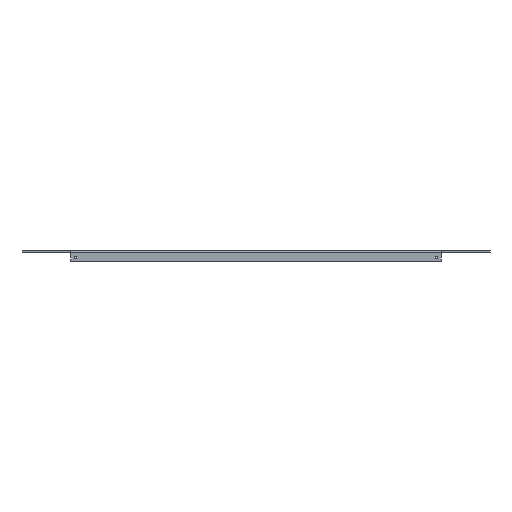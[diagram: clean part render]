
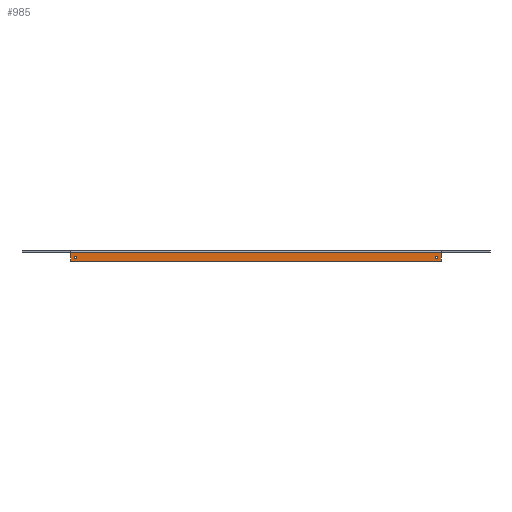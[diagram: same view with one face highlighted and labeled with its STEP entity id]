
A CAD part, left-side view. The second image highlights one B-rep face of the part: STEP entity #985.
In plain terms, the highlighted planar face has unit normal (-1, 0, 0).
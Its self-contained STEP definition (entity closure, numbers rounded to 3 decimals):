
#872=CARTESIAN_POINT('',(375.,3688.5,823.5));
#873=VERTEX_POINT('',#872);
#880=CARTESIAN_POINT('',(375.,4478.5,823.5));
#881=VERTEX_POINT('',#880);
#882=CARTESIAN_POINT('',(375.,4478.5,823.5));
#883=DIRECTION('',(-0.,-1.,-0.));
#884=VECTOR('',#883,790.);
#885=LINE('',#882,#884);
#886=EDGE_CURVE('',#881,#873,#885,.T.);
#897=CARTESIAN_POINT('',(375.,3593.5,840.));
#898=DIRECTION('',(-1.,0.,0.));
#899=DIRECTION('',(-0.,-1.,-0.));
#900=AXIS2_PLACEMENT_3D('',#897,#898,#899);
#901=PLANE('',#900);
#902=CARTESIAN_POINT('',(375.,4469.5,829.9));
#903=VERTEX_POINT('',#902);
#904=CARTESIAN_POINT('',(375.,4466.9,832.5));
#905=VERTEX_POINT('',#904);
#906=CARTESIAN_POINT('',(375.,4469.5,832.5));
#907=DIRECTION('',(-1.,0.,0.));
#908=DIRECTION('',(-0.,-1.,0.));
#909=AXIS2_PLACEMENT_3D('',#906,#907,#908);
#910=CIRCLE('',#909,2.6);
#911=EDGE_CURVE('',#903,#905,#910,.T.);
#912=ORIENTED_EDGE('',*,*,#911,.F.);
#913=CARTESIAN_POINT('',(375.,4469.5,832.5));
#914=DIRECTION('',(-1.,0.,0.));
#915=DIRECTION('',(-0.,-1.,0.));
#916=AXIS2_PLACEMENT_3D('',#913,#914,#915);
#917=CIRCLE('',#916,2.6);
#918=EDGE_CURVE('',#905,#903,#917,.T.);
#919=ORIENTED_EDGE('',*,*,#918,.F.);
#920=EDGE_LOOP('',(#912,#919));
#921=FACE_BOUND('',#920,.T.);
#922=CARTESIAN_POINT('',(375.,3697.5,829.9));
#923=VERTEX_POINT('',#922);
#924=CARTESIAN_POINT('',(375.,3694.9,832.5));
#925=VERTEX_POINT('',#924);
#926=CARTESIAN_POINT('',(375.,3697.5,832.5));
#927=DIRECTION('',(-1.,0.,0.));
#928=DIRECTION('',(-0.,-1.,0.));
#929=AXIS2_PLACEMENT_3D('',#926,#927,#928);
#930=CIRCLE('',#929,2.6);
#931=EDGE_CURVE('',#923,#925,#930,.T.);
#932=ORIENTED_EDGE('',*,*,#931,.F.);
#933=CARTESIAN_POINT('',(375.,3697.5,832.5));
#934=DIRECTION('',(-1.,0.,0.));
#935=DIRECTION('',(-0.,-1.,0.));
#936=AXIS2_PLACEMENT_3D('',#933,#934,#935);
#937=CIRCLE('',#936,2.6);
#938=EDGE_CURVE('',#925,#923,#937,.T.);
#939=ORIENTED_EDGE('',*,*,#938,.F.);
#940=EDGE_LOOP('',(#932,#939));
#941=FACE_BOUND('',#940,.T.);
#942=CARTESIAN_POINT('',(375.,3687.5,842.5));
#943=VERTEX_POINT('',#942);
#944=CARTESIAN_POINT('',(375.,3687.5,824.5));
#945=VERTEX_POINT('',#944);
#946=CARTESIAN_POINT('',(375.,3687.5,842.5));
#947=DIRECTION('',(0.,0.,-1.));
#948=VECTOR('',#947,18.);
#949=LINE('',#946,#948);
#950=EDGE_CURVE('',#943,#945,#949,.T.);
#951=ORIENTED_EDGE('',*,*,#950,.F.);
#952=CARTESIAN_POINT('',(375.,4479.5,842.5));
#953=VERTEX_POINT('',#952);
#954=CARTESIAN_POINT('',(375.,3687.5,842.5));
#955=DIRECTION('',(0.,1.,0.));
#956=VECTOR('',#955,792.);
#957=LINE('',#954,#956);
#958=EDGE_CURVE('',#943,#953,#957,.T.);
#959=ORIENTED_EDGE('',*,*,#958,.T.);
#960=CARTESIAN_POINT('',(375.,4479.5,824.5));
#961=VERTEX_POINT('',#960);
#962=CARTESIAN_POINT('',(375.,4479.5,842.5));
#963=DIRECTION('',(0.,0.,-1.));
#964=VECTOR('',#963,18.);
#965=LINE('',#962,#964);
#966=EDGE_CURVE('',#953,#961,#965,.T.);
#967=ORIENTED_EDGE('',*,*,#966,.T.);
#968=CARTESIAN_POINT('',(375.,4478.5,824.5));
#969=DIRECTION('',(-1.,0.,0.));
#970=DIRECTION('',(-0.,-1.,0.));
#971=AXIS2_PLACEMENT_3D('',#968,#969,#970);
#972=CIRCLE('',#971,1.);
#973=EDGE_CURVE('',#961,#881,#972,.T.);
#974=ORIENTED_EDGE('',*,*,#973,.T.);
#975=ORIENTED_EDGE('',*,*,#886,.T.);
#976=CARTESIAN_POINT('',(375.,3688.5,824.5));
#977=DIRECTION('',(-1.,0.,0.));
#978=DIRECTION('',(-0.,-1.,0.));
#979=AXIS2_PLACEMENT_3D('',#976,#977,#978);
#980=CIRCLE('',#979,1.);
#981=EDGE_CURVE('',#873,#945,#980,.T.);
#982=ORIENTED_EDGE('',*,*,#981,.T.);
#983=EDGE_LOOP('',(#951,#959,#967,#974,#975,#982));
#984=FACE_BOUND('',#983,.T.);
#985=ADVANCED_FACE('',(#921,#941,#984),#901,.T.);
